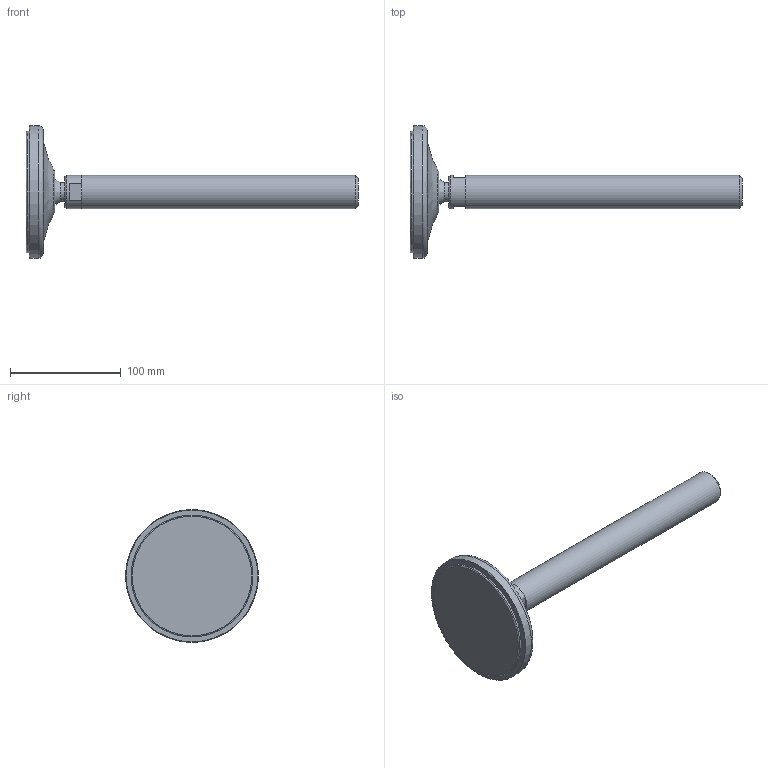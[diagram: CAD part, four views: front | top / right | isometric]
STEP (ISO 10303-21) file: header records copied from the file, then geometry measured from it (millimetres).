
FILE_DESCRIPTION(('STEP AP203'),'2;1');
FILE_NAME('10879.stp','2016-11-25T11:04:22',(''),(''),'2008.1.107','THINKDESIGN','');
FILE_SCHEMA(('CONFIG_CONTROL_DESIGN'));
Length unit declared in the file: millimetre
Bounding box: 300 x 120 x 120 mm (x, y, z)
Volume: 388947.9 mm3; surface area: 75567.9 mm2
Topology: 5 solids, 5 shells, 27 faces, 61 edges, 45 vertices
Faces by surface type: plane 14, bspline 8, cylinder 5
Full cylindrical faces by diameter (mm): 17 x1, 30 x2, 110 x1, 120 x1
Entity records: 1738 total; most frequent: CARTESIAN_POINT 921, DIRECTION 145, ORIENTED_EDGE 120, AXIS2_PLACEMENT_3D 65, EDGE_CURVE 60, CIRCLE 46, VERTEX_POINT 43, EDGE_LOOP 27
